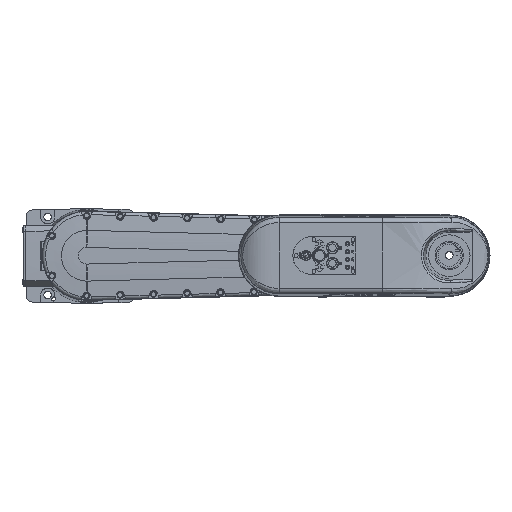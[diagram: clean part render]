
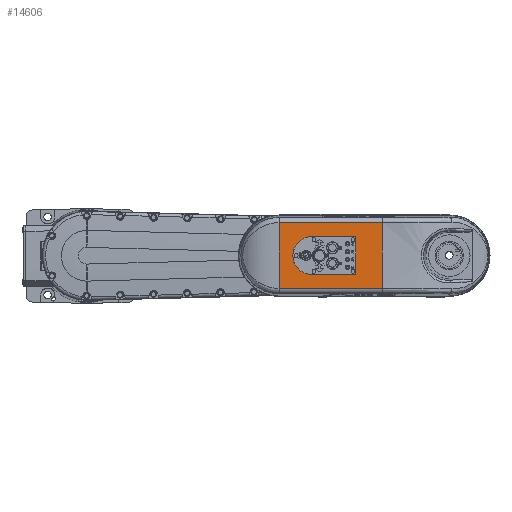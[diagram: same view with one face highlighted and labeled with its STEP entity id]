
A CAD part, top view. The second image highlights one B-rep face of the part: STEP entity #14606.
In plain terms, the highlighted planar face has unit normal (0, 0, 1).
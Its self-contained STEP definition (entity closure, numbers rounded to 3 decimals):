
#2640 = VECTOR ( 'NONE', #33764, 1000. ) ;
#4686 = EDGE_CURVE ( 'NONE', #51659, #38110, #57721, .T. ) ;
#4717 = CARTESIAN_POINT ( 'NONE',  ( 482.5, -33.172, 457.7 ) ) ;
#4989 = CARTESIAN_POINT ( 'NONE',  ( 482.5, 32.001, 457.7 ) ) ;
#5007 = CARTESIAN_POINT ( 'NONE',  ( 481.672, -34., 457.7 ) ) ;
#5814 = VERTEX_POINT ( 'NONE', #23261 ) ;
#5919 = CARTESIAN_POINT ( 'NONE',  ( 482.5, -32.001, 457.7 ) ) ;
#6069 = CARTESIAN_POINT ( 'NONE',  ( 482.5, 34., 457.7 ) ) ;
#6618 = EDGE_CURVE ( 'NONE', #86855, #16258, #50124, .T. ) ;
#10029 = DIRECTION ( 'NONE',  ( 0., 0., 1. ) ) ;
#11068 = CARTESIAN_POINT ( 'NONE',  ( 482.5, 32.001, 457.7 ) ) ;
#11261 = DIRECTION ( 'NONE',  ( 0., 1., 0. ) ) ;
#11764 = ORIENTED_EDGE ( 'NONE', *, *, #6618, .F. ) ;
#12183 = FACE_BOUND ( 'NONE', #86467, .T. ) ;
#13991 = ORIENTED_EDGE ( 'NONE', *, *, #79016, .T. ) ;
#14606 = ADVANCED_FACE ( 'NONE', ( #31142, #12183 ), #16286, .T. ) ;
#14748 = ORIENTED_EDGE ( 'NONE', *, *, #41233, .T. ) ;
#15074 = EDGE_CURVE ( 'NONE', #5814, #21276, #25515, .T. ) ;
#16258 = VERTEX_POINT ( 'NONE', #27959 ) ;
#16286 = PLANE ( 'NONE',  #61614 ) ;
#16495 = VERTEX_POINT ( 'NONE', #11068 ) ;
#17178 = DIRECTION ( 'NONE',  ( 0., -1., 0. ) ) ;
#18167 = CARTESIAN_POINT ( 'NONE',  ( 482.5, 34., 457.7 ) ) ;
#18649 = CARTESIAN_POINT ( 'NONE',  ( 480.501, 34., 457.7 ) ) ;
#20770 = ORIENTED_EDGE ( 'NONE', *, *, #76567, .T. ) ;
#20965 = LINE ( 'NONE', #18167, #32187 ) ;
#21276 = VERTEX_POINT ( 'NONE', #42189 ) ;
#21645 = LINE ( 'NONE', #69297, #32868 ) ;
#23261 = CARTESIAN_POINT ( 'NONE',  ( 403.5, 34., 457.7 ) ) ;
#25203 = DIRECTION ( 'NONE',  ( 0., 1., 0. ) ) ;
#25515 = CIRCLE ( 'NONE', #74728, 34. ) ;
#27077 = ORIENTED_EDGE ( 'NONE', *, *, #4686, .T. ) ;
#27870 = EDGE_CURVE ( 'NONE', #29866, #16258, #31147, .T. ) ;
#27959 = CARTESIAN_POINT ( 'NONE',  ( 345., 59.156, 457.7 ) ) ;
#29866 = VERTEX_POINT ( 'NONE', #75844 ) ;
#30176 =( BOUNDED_CURVE ( )  B_SPLINE_CURVE ( 3, ( #33704, #46857, #47166, #4989 ),
 .UNSPECIFIED., .F., .F. ) 
 B_SPLINE_CURVE_WITH_KNOTS ( ( 4, 4 ),
 ( 2.357, 3.927 ),
 .UNSPECIFIED. ) 
 CURVE ( )  GEOMETRIC_REPRESENTATION_ITEM ( )  RATIONAL_B_SPLINE_CURVE ( ( 1., 0.805, 0.805, 1. ) ) 
 REPRESENTATION_ITEM ( '' )  );
#30282 = CARTESIAN_POINT ( 'NONE',  ( 530., -59.156, 457.7 ) ) ;
#31093 = VECTOR ( 'NONE', #41561, 1000. ) ;
#31142 = FACE_OUTER_BOUND ( 'NONE', #90641, .T. ) ;
#31147 = LINE ( 'NONE', #31506, #82694 ) ;
#31506 = CARTESIAN_POINT ( 'NONE',  ( 345., 59.156, 457.7 ) ) ;
#31778 = DIRECTION ( 'NONE',  ( 0., 0., 1. ) ) ;
#32187 = VECTOR ( 'NONE', #38521, 1000. ) ;
#32757 = ORIENTED_EDGE ( 'NONE', *, *, #46168, .F. ) ;
#32868 = VECTOR ( 'NONE', #83005, 1000. ) ;
#33704 = CARTESIAN_POINT ( 'NONE',  ( 480.501, 34., 457.7 ) ) ;
#33764 = DIRECTION ( 'NONE',  ( 1., 0., 0. ) ) ;
#37957 = EDGE_CURVE ( 'NONE', #84667, #5814, #20965, .T. ) ;
#38110 = VERTEX_POINT ( 'NONE', #63824 ) ;
#38521 = DIRECTION ( 'NONE',  ( -1., 0., 0. ) ) ;
#41233 = EDGE_CURVE ( 'NONE', #84667, #16495, #30176, .T. ) ;
#41561 = DIRECTION ( 'NONE',  ( 0., 1., 0. ) ) ;
#42189 = CARTESIAN_POINT ( 'NONE',  ( 403.5, -34., 457.7 ) ) ;
#46168 = EDGE_CURVE ( 'NONE', #21276, #38110, #21645, .T. ) ;
#46857 = CARTESIAN_POINT ( 'NONE',  ( 481.672, 34., 457.7 ) ) ;
#47166 = CARTESIAN_POINT ( 'NONE',  ( 482.5, 33.172, 457.7 ) ) ;
#47192 = CARTESIAN_POINT ( 'NONE',  ( 480.501, -34., 457.7 ) ) ;
#47831 = CARTESIAN_POINT ( 'NONE',  ( 530., -59.156, 457.7 ) ) ;
#50124 = LINE ( 'NONE', #84407, #31093 ) ;
#51659 = VERTEX_POINT ( 'NONE', #5919 ) ;
#53696 = VERTEX_POINT ( 'NONE', #30282 ) ;
#56291 = ORIENTED_EDGE ( 'NONE', *, *, #37957, .F. ) ;
#57721 =( BOUNDED_CURVE ( )  B_SPLINE_CURVE ( 3, ( #62228, #4717, #5007, #47192 ),
 .UNSPECIFIED., .F., .F. ) 
 B_SPLINE_CURVE_WITH_KNOTS ( ( 4, 4 ),
 ( 2.357, 3.927 ),
 .UNSPECIFIED. ) 
 CURVE ( )  GEOMETRIC_REPRESENTATION_ITEM ( )  RATIONAL_B_SPLINE_CURVE ( ( 1., 0.805, 0.805, 1. ) ) 
 REPRESENTATION_ITEM ( '' )  );
#60007 = DIRECTION ( 'NONE',  ( -1., 0., 0. ) ) ;
#60107 = LINE ( 'NONE', #90656, #86937 ) ;
#61286 = LINE ( 'NONE', #6069, #62391 ) ;
#61614 = AXIS2_PLACEMENT_3D ( 'NONE', #66398, #10029, #17178 ) ;
#62228 = CARTESIAN_POINT ( 'NONE',  ( 482.5, -32.001, 457.7 ) ) ;
#62391 = VECTOR ( 'NONE', #77644, 1000. ) ;
#63824 = CARTESIAN_POINT ( 'NONE',  ( 480.501, -34., 457.7 ) ) ;
#66398 = CARTESIAN_POINT ( 'NONE',  ( 345., 0., 457.7 ) ) ;
#68503 = EDGE_CURVE ( 'NONE', #51659, #16495, #61286, .T. ) ;
#69297 = CARTESIAN_POINT ( 'NONE',  ( 482.5, -34., 457.7 ) ) ;
#73534 = ORIENTED_EDGE ( 'NONE', *, *, #27870, .T. ) ;
#74634 = CARTESIAN_POINT ( 'NONE',  ( 403.5, 0., 457.7 ) ) ;
#74728 = AXIS2_PLACEMENT_3D ( 'NONE', #74634, #31778, #25203 ) ;
#75373 = LINE ( 'NONE', #47831, #2640 ) ;
#75844 = CARTESIAN_POINT ( 'NONE',  ( 530., 59.156, 457.7 ) ) ;
#76567 = EDGE_CURVE ( 'NONE', #53696, #29866, #60107, .T. ) ;
#77644 = DIRECTION ( 'NONE',  ( 0., 1., 0. ) ) ;
#79016 = EDGE_CURVE ( 'NONE', #86855, #53696, #75373, .T. ) ;
#80636 = ORIENTED_EDGE ( 'NONE', *, *, #15074, .F. ) ;
#82694 = VECTOR ( 'NONE', #60007, 1000. ) ;
#83005 = DIRECTION ( 'NONE',  ( 1., 0., 0. ) ) ;
#84114 = CARTESIAN_POINT ( 'NONE',  ( 345., -59.156, 457.7 ) ) ;
#84407 = CARTESIAN_POINT ( 'NONE',  ( 345., -705.242, 457.7 ) ) ;
#84667 = VERTEX_POINT ( 'NONE', #18649 ) ;
#85570 = ORIENTED_EDGE ( 'NONE', *, *, #68503, .F. ) ;
#86467 = EDGE_LOOP ( 'NONE', ( #56291, #14748, #85570, #27077, #32757, #80636 ) ) ;
#86855 = VERTEX_POINT ( 'NONE', #84114 ) ;
#86937 = VECTOR ( 'NONE', #11261, 1000. ) ;
#90641 = EDGE_LOOP ( 'NONE', ( #20770, #73534, #11764, #13991 ) ) ;
#90656 = CARTESIAN_POINT ( 'NONE',  ( 530., -705.455, 457.7 ) ) ;
